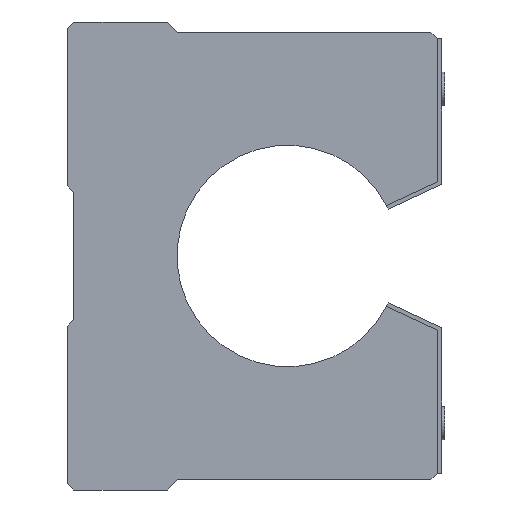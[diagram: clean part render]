
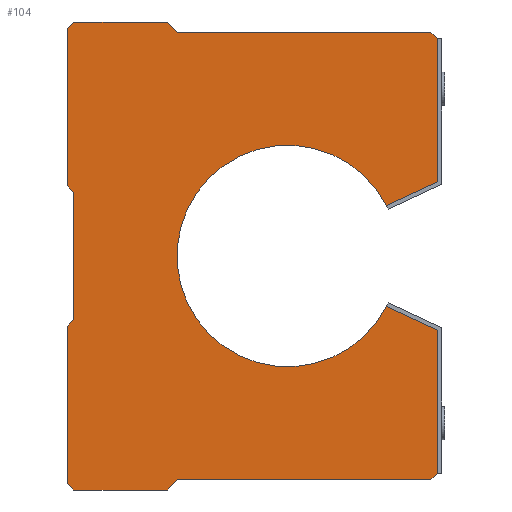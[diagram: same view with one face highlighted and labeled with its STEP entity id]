
A CAD part, left-side view. The second image highlights one B-rep face of the part: STEP entity #104.
In plain terms, the highlighted planar face has unit normal (-1, 0, 0).
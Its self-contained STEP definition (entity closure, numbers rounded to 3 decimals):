
#104 = ADVANCED_FACE( '', ( #264 ), #265, .F. );
#264 = FACE_OUTER_BOUND( '', #536, .T. );
#265 = PLANE( '', #537 );
#536 = EDGE_LOOP( '', ( #989, #990, #991, #992, #993, #994, #995, #996, #997, #998, #999, #1000, #1001, #1002, #1003, #1004, #1005, #1006, #1007, #1008 ) );
#537 = AXIS2_PLACEMENT_3D( '', #1009, #1010, #1011 );
#989 = ORIENTED_EDGE( '', *, *, #1823, .F. );
#990 = ORIENTED_EDGE( '', *, *, #1862, .F. );
#991 = ORIENTED_EDGE( '', *, *, #1857, .F. );
#992 = ORIENTED_EDGE( '', *, *, #1854, .F. );
#993 = ORIENTED_EDGE( '', *, *, #1851, .F. );
#994 = ORIENTED_EDGE( '', *, *, #1848, .F. );
#995 = ORIENTED_EDGE( '', *, *, #1843, .F. );
#996 = ORIENTED_EDGE( '', *, *, #1840, .F. );
#997 = ORIENTED_EDGE( '', *, *, #1837, .F. );
#998 = ORIENTED_EDGE( '', *, *, #1834, .F. );
#999 = ORIENTED_EDGE( '', *, *, #1831, .F. );
#1000 = ORIENTED_EDGE( '', *, *, #1785, .F. );
#1001 = ORIENTED_EDGE( '', *, *, #1782, .F. );
#1002 = ORIENTED_EDGE( '', *, *, #1794, .T. );
#1003 = ORIENTED_EDGE( '', *, *, #1828, .F. );
#1004 = ORIENTED_EDGE( '', *, *, #1830, .F. );
#1005 = ORIENTED_EDGE( '', *, *, #1809, .F. );
#1006 = ORIENTED_EDGE( '', *, *, #1814, .F. );
#1007 = ORIENTED_EDGE( '', *, *, #1817, .F. );
#1008 = ORIENTED_EDGE( '', *, *, #1820, .F. );
#1009 = CARTESIAN_POINT( '', ( -35., 0., 0. ) );
#1010 = DIRECTION( '', ( 1., 0., 0. ) );
#1011 = DIRECTION( '', ( 0., 0., -1. ) );
#1782 = EDGE_CURVE( '', #2135, #2137, #2138, .T. );
#1785 = EDGE_CURVE( '', #2137, #2141, #2142, .T. );
#1794 = EDGE_CURVE( '', #2135, #2156, #2157, .T. );
#1809 = EDGE_CURVE( '', #2181, #2182, #2183, .T. );
#1814 = EDGE_CURVE( '', #2190, #2181, #2191, .T. );
#1817 = EDGE_CURVE( '', #2195, #2190, #2196, .T. );
#1820 = EDGE_CURVE( '', #2200, #2195, #2201, .T. );
#1823 = EDGE_CURVE( '', #2205, #2200, #2206, .T. );
#1828 = EDGE_CURVE( '', #2212, #2156, #2214, .T. );
#1830 = EDGE_CURVE( '', #2182, #2212, #2216, .T. );
#1831 = EDGE_CURVE( '', #2141, #2217, #2218, .T. );
#1834 = EDGE_CURVE( '', #2217, #2222, #2223, .T. );
#1837 = EDGE_CURVE( '', #2222, #2227, #2228, .T. );
#1840 = EDGE_CURVE( '', #2227, #2232, #2233, .T. );
#1843 = EDGE_CURVE( '', #2232, #2237, #2238, .T. );
#1848 = EDGE_CURVE( '', #2237, #2246, #2247, .T. );
#1851 = EDGE_CURVE( '', #2246, #2251, #2252, .T. );
#1854 = EDGE_CURVE( '', #2251, #2256, #2257, .T. );
#1857 = EDGE_CURVE( '', #2256, #2261, #2262, .T. );
#1862 = EDGE_CURVE( '', #2261, #2205, #2270, .T. );
#2135 = VERTEX_POINT( '', #2692 );
#2137 = VERTEX_POINT( '', #2695 );
#2138 = LINE( '', #2696, #2697 );
#2141 = VERTEX_POINT( '', #2702 );
#2142 = LINE( '', #2703, #2704 );
#2156 = VERTEX_POINT( '', #2726 );
#2157 = CIRCLE( '', #2727, 16.563 );
#2181 = VERTEX_POINT( '', #2760 );
#2182 = VERTEX_POINT( '', #2761 );
#2183 = LINE( '', #2762, #2763 );
#2190 = VERTEX_POINT( '', #2774 );
#2191 = LINE( '', #2775, #2776 );
#2195 = VERTEX_POINT( '', #2782 );
#2196 = LINE( '', #2783, #2784 );
#2200 = VERTEX_POINT( '', #2790 );
#2201 = LINE( '', #2791, #2792 );
#2205 = VERTEX_POINT( '', #2798 );
#2206 = LINE( '', #2799, #2800 );
#2212 = VERTEX_POINT( '', #2809 );
#2214 = LINE( '', #2812, #2813 );
#2216 = LINE( '', #2816, #2817 );
#2217 = VERTEX_POINT( '', #2818 );
#2218 = LINE( '', #2819, #2820 );
#2222 = VERTEX_POINT( '', #2826 );
#2223 = LINE( '', #2827, #2828 );
#2227 = VERTEX_POINT( '', #2834 );
#2228 = LINE( '', #2835, #2836 );
#2232 = VERTEX_POINT( '', #2842 );
#2233 = LINE( '', #2843, #2844 );
#2237 = VERTEX_POINT( '', #2850 );
#2238 = LINE( '', #2851, #2852 );
#2246 = VERTEX_POINT( '', #2862 );
#2247 = LINE( '', #2863, #2864 );
#2251 = VERTEX_POINT( '', #2870 );
#2252 = LINE( '', #2871, #2872 );
#2256 = VERTEX_POINT( '', #2878 );
#2257 = LINE( '', #2879, #2880 );
#2261 = VERTEX_POINT( '', #2886 );
#2262 = LINE( '', #2887, #2888 );
#2270 = LINE( '', #2898, #2899 );
#2692 = CARTESIAN_POINT( '', ( -35., -14.748, -7.539 ) );
#2695 = CARTESIAN_POINT( '', ( -35., -22.4, -11.107 ) );
#2696 = CARTESIAN_POINT( '', ( -35., -14.748, -7.539 ) );
#2697 = VECTOR( '', #3408, 1000. );
#2702 = CARTESIAN_POINT( '', ( -35., -22.4, -32.5 ) );
#2703 = CARTESIAN_POINT( '', ( -35., -22.4, -11.107 ) );
#2704 = VECTOR( '', #3411, 1000. );
#2726 = CARTESIAN_POINT( '', ( -35., -14.748, 7.539 ) );
#2727 = AXIS2_PLACEMENT_3D( '', #3420, #3421, #3422 );
#2760 = CARTESIAN_POINT( '', ( -35., -21.4, 33.5 ) );
#2761 = CARTESIAN_POINT( '', ( -35., -22.4, 32.5 ) );
#2762 = CARTESIAN_POINT( '', ( -35., -21.4, 33.5 ) );
#2763 = VECTOR( '', #3447, 1000. );
#2774 = CARTESIAN_POINT( '', ( -35., 16.5, 33.5 ) );
#2775 = CARTESIAN_POINT( '', ( -35., 16.5, 33.5 ) );
#2776 = VECTOR( '', #3452, 1000. );
#2782 = CARTESIAN_POINT( '', ( -35., 18., 35. ) );
#2783 = CARTESIAN_POINT( '', ( -35., 18., 35. ) );
#2784 = VECTOR( '', #3455, 1000. );
#2790 = CARTESIAN_POINT( '', ( -35., 32., 35. ) );
#2791 = CARTESIAN_POINT( '', ( -35., 32., 35. ) );
#2792 = VECTOR( '', #3458, 1000. );
#2798 = CARTESIAN_POINT( '', ( -35., 33., 34. ) );
#2799 = CARTESIAN_POINT( '', ( -35., 33., 34. ) );
#2800 = VECTOR( '', #3461, 1000. );
#2809 = CARTESIAN_POINT( '', ( -35., -22.4, 11.107 ) );
#2812 = CARTESIAN_POINT( '', ( -35., -22.4, 11.107 ) );
#2813 = VECTOR( '', #3466, 1000. );
#2816 = CARTESIAN_POINT( '', ( -35., -22.4, 32.5 ) );
#2817 = VECTOR( '', #3468, 1000. );
#2818 = CARTESIAN_POINT( '', ( -35., -21.4, -33.5 ) );
#2819 = CARTESIAN_POINT( '', ( -35., -22.4, -32.5 ) );
#2820 = VECTOR( '', #3469, 1000. );
#2826 = CARTESIAN_POINT( '', ( -35., 16.5, -33.5 ) );
#2827 = CARTESIAN_POINT( '', ( -35., -21.4, -33.5 ) );
#2828 = VECTOR( '', #3472, 1000. );
#2834 = CARTESIAN_POINT( '', ( -35., 18., -35. ) );
#2835 = CARTESIAN_POINT( '', ( -35., 16.5, -33.5 ) );
#2836 = VECTOR( '', #3475, 1000. );
#2842 = CARTESIAN_POINT( '', ( -35., 32., -35. ) );
#2843 = CARTESIAN_POINT( '', ( -35., 18., -35. ) );
#2844 = VECTOR( '', #3478, 1000. );
#2850 = CARTESIAN_POINT( '', ( -35., 33., -34. ) );
#2851 = CARTESIAN_POINT( '', ( -35., 32., -35. ) );
#2852 = VECTOR( '', #3481, 1000. );
#2862 = CARTESIAN_POINT( '', ( -35., 33., -10.5 ) );
#2863 = CARTESIAN_POINT( '', ( -35., 33., -34. ) );
#2864 = VECTOR( '', #3490, 1000. );
#2870 = CARTESIAN_POINT( '', ( -35., 32., -9.5 ) );
#2871 = CARTESIAN_POINT( '', ( -35., 33., -10.5 ) );
#2872 = VECTOR( '', #3493, 1000. );
#2878 = CARTESIAN_POINT( '', ( -35., 32., 9.5 ) );
#2879 = CARTESIAN_POINT( '', ( -35., 32., -9.5 ) );
#2880 = VECTOR( '', #3496, 1000. );
#2886 = CARTESIAN_POINT( '', ( -35., 33., 10.5 ) );
#2887 = CARTESIAN_POINT( '', ( -35., 32., 9.5 ) );
#2888 = VECTOR( '', #3499, 1000. );
#2898 = CARTESIAN_POINT( '', ( -35., 33., 10.5 ) );
#2899 = VECTOR( '', #3508, 1000. );
#3408 = DIRECTION( '', ( 0., -0.906, -0.423 ) );
#3411 = DIRECTION( '', ( 0., 0., -1. ) );
#3420 = CARTESIAN_POINT( '', ( -35., 0., 0. ) );
#3421 = DIRECTION( '', ( 1., 0., 0. ) );
#3422 = DIRECTION( '', ( 0., 0., -1. ) );
#3447 = DIRECTION( '', ( 0., -0.707, -0.707 ) );
#3452 = DIRECTION( '', ( 0., -1., 0. ) );
#3455 = DIRECTION( '', ( 0., -0.707, -0.707 ) );
#3458 = DIRECTION( '', ( 0., -1., 0. ) );
#3461 = DIRECTION( '', ( 0., -0.707, 0.707 ) );
#3466 = DIRECTION( '', ( 0., 0.906, -0.423 ) );
#3468 = DIRECTION( '', ( 0., 0., -1. ) );
#3469 = DIRECTION( '', ( 0., 0.707, -0.707 ) );
#3472 = DIRECTION( '', ( 0., 1., 0. ) );
#3475 = DIRECTION( '', ( 0., 0.707, -0.707 ) );
#3478 = DIRECTION( '', ( 0., 1., 0. ) );
#3481 = DIRECTION( '', ( 0., 0.707, 0.707 ) );
#3490 = DIRECTION( '', ( 0., 0., 1. ) );
#3493 = DIRECTION( '', ( 0., -0.707, 0.707 ) );
#3496 = DIRECTION( '', ( 0., 0., 1. ) );
#3499 = DIRECTION( '', ( 0., 0.707, 0.707 ) );
#3508 = DIRECTION( '', ( 0., 0., 1. ) );
